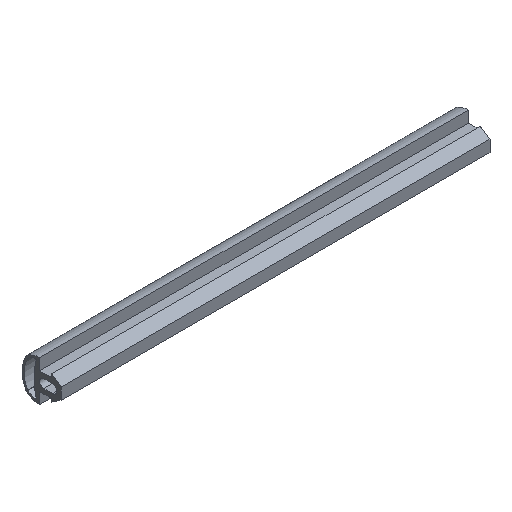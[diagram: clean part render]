
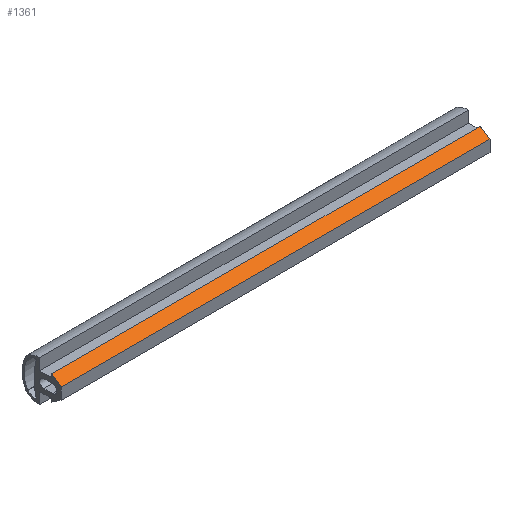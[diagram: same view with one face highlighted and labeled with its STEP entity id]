
A CAD part, isometric view. The second image highlights one B-rep face of the part: STEP entity #1361.
In plain terms, the highlighted planar face has unit normal (0, -0.555, 0.832).
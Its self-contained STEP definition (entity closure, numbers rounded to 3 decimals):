
#36 = ORIENTED_EDGE ( 'NONE', *, *, #1141, .F. ) ;
#56 = CARTESIAN_POINT ( 'NONE',  ( 200., -9.034, 2.438 ) ) ;
#95 = VERTEX_POINT ( 'NONE', #1350 ) ;
#112 = ORIENTED_EDGE ( 'NONE', *, *, #584, .F. ) ;
#193 = LINE ( 'NONE', #1488, #1304 ) ;
#211 = LINE ( 'NONE', #1273, #1172 ) ;
#222 = VECTOR ( 'NONE', #1275, 1000. ) ;
#227 = CARTESIAN_POINT ( 'NONE',  ( 0., -9.034, 2.438 ) ) ;
#229 = EDGE_CURVE ( 'NONE', #413, #95, #233, .T. ) ;
#233 = LINE ( 'NONE', #807, #222 ) ;
#313 = CARTESIAN_POINT ( 'NONE',  ( 200., -4.534, 5.438 ) ) ;
#320 = DIRECTION ( 'NONE',  ( 0., 0.555, -0.832 ) ) ;
#338 = AXIS2_PLACEMENT_3D ( 'NONE', #313, #320, #1366 ) ;
#413 = VERTEX_POINT ( 'NONE', #813 ) ;
#446 = FACE_OUTER_BOUND ( 'NONE', #479, .T. ) ;
#456 = PLANE ( 'NONE',  #338 ) ;
#479 = EDGE_LOOP ( 'NONE', ( #1247, #112, #36, #751 ) ) ;
#584 = EDGE_CURVE ( 'NONE', #868, #1432, #1445, .T. ) ;
#618 = CARTESIAN_POINT ( 'NONE',  ( 200., -9.034, 2.438 ) ) ;
#664 = VECTOR ( 'NONE', #870, 1000. ) ;
#751 = ORIENTED_EDGE ( 'NONE', *, *, #229, .T. ) ;
#790 = DIRECTION ( 'NONE',  ( 0., -0.832, -0.555 ) ) ;
#807 = CARTESIAN_POINT ( 'NONE',  ( 200., -4.534, 5.438 ) ) ;
#813 = CARTESIAN_POINT ( 'NONE',  ( 200., -4.534, 5.438 ) ) ;
#868 = VERTEX_POINT ( 'NONE', #56 ) ;
#870 = DIRECTION ( 'NONE',  ( -1., 0., 0. ) ) ;
#937 = EDGE_CURVE ( 'NONE', #95, #1432, #211, .T. ) ;
#1141 = EDGE_CURVE ( 'NONE', #413, #868, #193, .T. ) ;
#1172 = VECTOR ( 'NONE', #790, 1000. ) ;
#1247 = ORIENTED_EDGE ( 'NONE', *, *, #937, .T. ) ;
#1251 = DIRECTION ( 'NONE',  ( 0., -0.832, -0.555 ) ) ;
#1273 = CARTESIAN_POINT ( 'NONE',  ( 0., -4.534, 5.438 ) ) ;
#1275 = DIRECTION ( 'NONE',  ( -1., 0., 0. ) ) ;
#1304 = VECTOR ( 'NONE', #1251, 1000. ) ;
#1350 = CARTESIAN_POINT ( 'NONE',  ( 0., -4.534, 5.438 ) ) ;
#1361 = ADVANCED_FACE ( 'NONE', ( #446 ), #456, .F. ) ;
#1366 = DIRECTION ( 'NONE',  ( 0., 0.832, 0.555 ) ) ;
#1432 = VERTEX_POINT ( 'NONE', #227 ) ;
#1445 = LINE ( 'NONE', #618, #664 ) ;
#1488 = CARTESIAN_POINT ( 'NONE',  ( 200., -4.534, 5.438 ) ) ;
